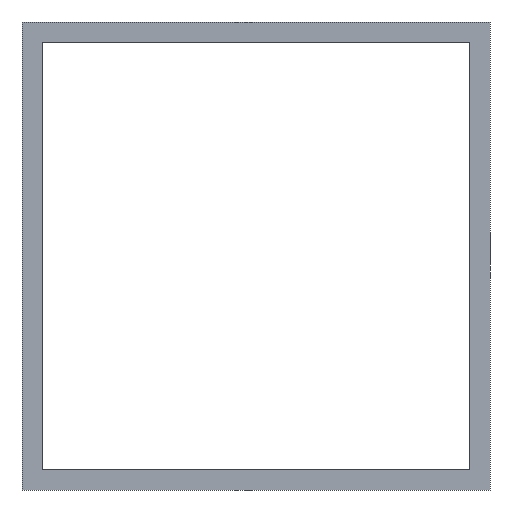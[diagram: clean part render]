
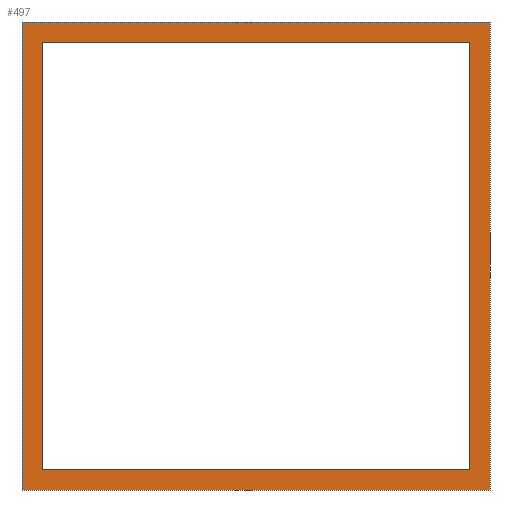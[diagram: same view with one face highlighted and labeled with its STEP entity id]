
A CAD part, front view. The second image highlights one B-rep face of the part: STEP entity #497.
In plain terms, the highlighted planar face has unit normal (0, -1, 0).
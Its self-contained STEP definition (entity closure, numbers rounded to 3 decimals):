
#2 = EDGE_CURVE ( 'NONE', #172, #433, #436, .T. ) ;
#7 = DIRECTION ( 'NONE',  ( 0., 0., 1. ) ) ;
#14 = DIRECTION ( 'NONE',  ( 1., 0., 0. ) ) ;
#18 = CARTESIAN_POINT ( 'NONE',  ( 70., 0., 0. ) ) ;
#20 = ORIENTED_EDGE ( 'NONE', *, *, #515, .T. ) ;
#36 = VERTEX_POINT ( 'NONE', #296 ) ;
#39 = VECTOR ( 'NONE', #300, 1000. ) ;
#47 = DIRECTION ( 'NONE',  ( -1., 0., 0. ) ) ;
#48 = DIRECTION ( 'NONE',  ( 0., 0., -1. ) ) ;
#55 = ORIENTED_EDGE ( 'NONE', *, *, #250, .F. ) ;
#65 = EDGE_LOOP ( 'NONE', ( #20, #346, #70, #126 ) ) ;
#70 = ORIENTED_EDGE ( 'NONE', *, *, #262, .T. ) ;
#72 = VECTOR ( 'NONE', #177, 1000. ) ;
#76 = CARTESIAN_POINT ( 'NONE',  ( 0., 0., -70. ) ) ;
#94 = EDGE_LOOP ( 'NONE', ( #167, #265, #240, #55 ) ) ;
#95 = CARTESIAN_POINT ( 'NONE',  ( 70., 0., 0. ) ) ;
#108 = VERTEX_POINT ( 'NONE', #95 ) ;
#126 = ORIENTED_EDGE ( 'NONE', *, *, #163, .T. ) ;
#148 = LINE ( 'NONE', #223, #365 ) ;
#163 = EDGE_CURVE ( 'NONE', #478, #362, #260, .T. ) ;
#167 = ORIENTED_EDGE ( 'NONE', *, *, #226, .F. ) ;
#170 = CARTESIAN_POINT ( 'NONE',  ( 3., 0., -67. ) ) ;
#172 = VERTEX_POINT ( 'NONE', #343 ) ;
#176 = EDGE_CURVE ( 'NONE', #108, #172, #350, .T. ) ;
#177 = DIRECTION ( 'NONE',  ( 0., 0., -1. ) ) ;
#181 = VERTEX_POINT ( 'NONE', #170 ) ;
#198 = VECTOR ( 'NONE', #212, 1000. ) ;
#202 = LINE ( 'NONE', #255, #402 ) ;
#212 = DIRECTION ( 'NONE',  ( -1., 0., 0. ) ) ;
#215 = VECTOR ( 'NONE', #47, 1000. ) ;
#218 = LINE ( 'NONE', #349, #458 ) ;
#223 = CARTESIAN_POINT ( 'NONE',  ( 0., 0., 0. ) ) ;
#226 = EDGE_CURVE ( 'NONE', #433, #377, #218, .T. ) ;
#239 = LINE ( 'NONE', #284, #398 ) ;
#240 = ORIENTED_EDGE ( 'NONE', *, *, #176, .F. ) ;
#250 = EDGE_CURVE ( 'NONE', #377, #108, #148, .T. ) ;
#252 = FACE_BOUND ( 'NONE', #65, .T. ) ;
#255 = CARTESIAN_POINT ( 'NONE',  ( 3., 0., -3. ) ) ;
#260 = LINE ( 'NONE', #263, #72 ) ;
#262 = EDGE_CURVE ( 'NONE', #36, #478, #202, .T. ) ;
#263 = CARTESIAN_POINT ( 'NONE',  ( 67., 0., -3. ) ) ;
#265 = ORIENTED_EDGE ( 'NONE', *, *, #2, .F. ) ;
#268 = CARTESIAN_POINT ( 'NONE',  ( 0., 0., 0. ) ) ;
#284 = CARTESIAN_POINT ( 'NONE',  ( 3., 0., -3. ) ) ;
#290 = DIRECTION ( 'NONE',  ( 0., -1., 0. ) ) ;
#296 = CARTESIAN_POINT ( 'NONE',  ( 3., 0., -3. ) ) ;
#300 = DIRECTION ( 'NONE',  ( 0., 0., -1. ) ) ;
#311 = FACE_OUTER_BOUND ( 'NONE', #94, .T. ) ;
#315 = DIRECTION ( 'NONE',  ( 1., 0., 0. ) ) ;
#335 = CARTESIAN_POINT ( 'NONE',  ( 0., 0., -70. ) ) ;
#339 = LINE ( 'NONE', #461, #215 ) ;
#343 = CARTESIAN_POINT ( 'NONE',  ( 70., 0., -70. ) ) ;
#346 = ORIENTED_EDGE ( 'NONE', *, *, #504, .T. ) ;
#349 = CARTESIAN_POINT ( 'NONE',  ( 0., 0., 0. ) ) ;
#350 = LINE ( 'NONE', #18, #39 ) ;
#362 = VERTEX_POINT ( 'NONE', #534 ) ;
#365 = VECTOR ( 'NONE', #14, 1000. ) ;
#369 = CARTESIAN_POINT ( 'NONE',  ( 67., 0., -3. ) ) ;
#371 = PLANE ( 'NONE',  #533 ) ;
#377 = VERTEX_POINT ( 'NONE', #268 ) ;
#387 = DIRECTION ( 'NONE',  ( 0., 0., 1. ) ) ;
#398 = VECTOR ( 'NONE', #7, 1000. ) ;
#402 = VECTOR ( 'NONE', #315, 1000. ) ;
#419 = CARTESIAN_POINT ( 'NONE',  ( 0., 0., 0. ) ) ;
#433 = VERTEX_POINT ( 'NONE', #76 ) ;
#436 = LINE ( 'NONE', #335, #198 ) ;
#458 = VECTOR ( 'NONE', #387, 1000. ) ;
#461 = CARTESIAN_POINT ( 'NONE',  ( 3., 0., -67. ) ) ;
#478 = VERTEX_POINT ( 'NONE', #369 ) ;
#497 = ADVANCED_FACE ( 'NONE', ( #311, #252 ), #371, .T. ) ;
#504 = EDGE_CURVE ( 'NONE', #181, #36, #239, .T. ) ;
#515 = EDGE_CURVE ( 'NONE', #362, #181, #339, .T. ) ;
#533 = AXIS2_PLACEMENT_3D ( 'NONE', #419, #290, #48 ) ;
#534 = CARTESIAN_POINT ( 'NONE',  ( 67., 0., -67. ) ) ;
